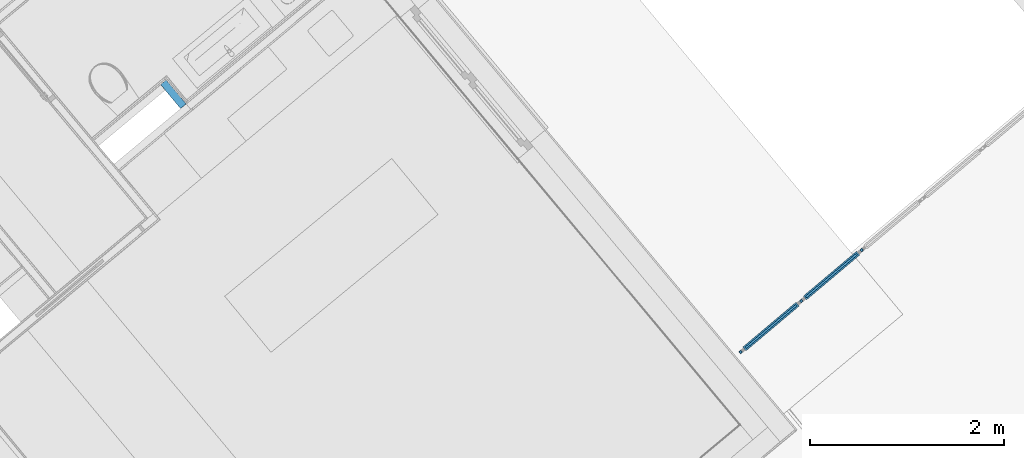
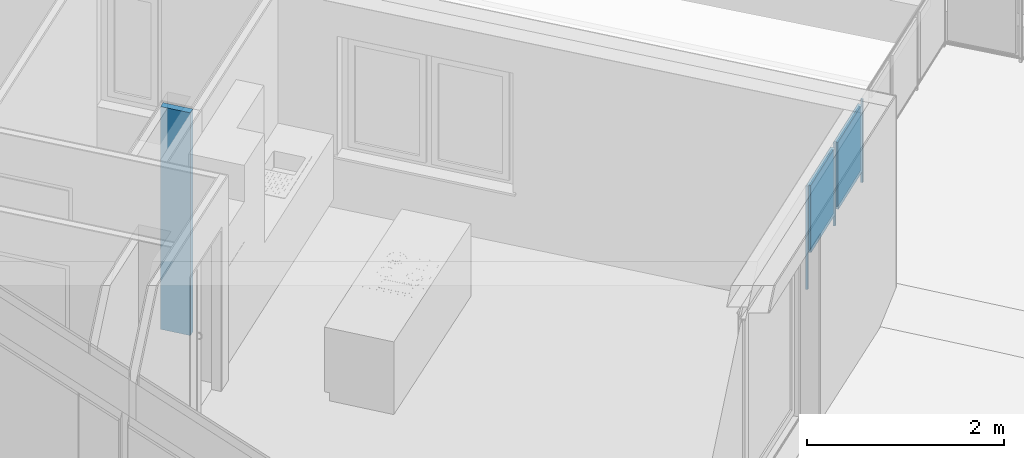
# One storey, part 42 of 67: 8 building element parts, 2 elements without a shape of their own.
"""IFC4 building model written with IfcOpenShell, lengths in metres."""

from ifc_helpers import new_model, entity, si_unit, converted_unit, derived_unit, direction, frame, origin_with_axes, place, context, subcontext, project, spatial, polygons, material, type_object, element, aggregate, save


model = new_model("IFC4")

# Units and contexts
model_context = context("Model", 3, precision=1e-05, world=origin_with_axes(), true_north=direction((0.0, 1.0)))
body_context = subcontext(model_context, "Body", "Model", "MODEL_VIEW")
ifc_project = project(units=[si_unit("LENGTHUNIT", "METRE"), si_unit("AREAUNIT", "SQUARE_METRE"), si_unit("VOLUMEUNIT", "CUBIC_METRE"), converted_unit("PLANEANGLEUNIT", "DEGREE", entity("IfcPlaneAngleMeasure", 0.0174532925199), si_unit("PLANEANGLEUNIT", "RADIAN"), dimensions=[0, 0, 0, 0, 0, 0, 0]), converted_unit("TIMEUNIT", "Year", entity("IfcTimeMeasure", 31556926.0), si_unit("TIMEUNIT", "SECOND"), dimensions=[0, 0, 1, 0, 0, 0, 0]), si_unit("MASSUNIT", "GRAM", prefix="KILO"), si_unit("THERMODYNAMICTEMPERATUREUNIT", "DEGREE_CELSIUS"), si_unit("LUMINOUSINTENSITYUNIT", "LUMEN"), si_unit("ENERGYUNIT", "JOULE", prefix="MEGA"), derived_unit("THERMALCONDUCTANCEUNIT", [(si_unit("POWERUNIT", "WATT"), 1), (si_unit("LENGTHUNIT", "METRE"), -1), (si_unit("THERMODYNAMICTEMPERATUREUNIT", "KELVIN"), -1)]), derived_unit("SPECIFICHEATCAPACITYUNIT", [(si_unit("ENERGYUNIT", "JOULE"), 1), (si_unit("MASSUNIT", "GRAM", prefix="KILO"), -1), (si_unit("THERMODYNAMICTEMPERATUREUNIT", "KELVIN"), -1)]), derived_unit("MASSDENSITYUNIT", [(si_unit("MASSUNIT", "GRAM", prefix="KILO"), 1), (si_unit("VOLUMEUNIT", "CUBIC_METRE"), -1)])], contexts=[model_context])

# Site, building, storey
site_placement = place(None, frame((-0.00153261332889, -0.00661245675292, 0.0), z_axis=(0.0, 0.0, 1.0), x_axis=(1.0, 0.0, 0.0)))
site = spatial("IfcSite", under=ifc_project, at=site_placement, Name="Site", CompositionType="ELEMENT")
building_placement = place(site_placement, origin_with_axes())
building = spatial("IfcBuilding", under=site, at=building_placement, Name="Building", CompositionType="ELEMENT")
storey_placement = place(building_placement, frame((0.0, 0.0, -0.22), z_axis=(0.0, 0.0, 1.0), x_axis=(1.0, 0.0, 0.0)))
storey = spatial("IfcBuildingStorey", under=building, at=storey_placement, Name="EG", CompositionType="ELEMENT", Elevation=-0.22)

# Wall, building element part
wall_type = type_object("IfcWallType", Name="LB 10,5 cm doppelte Vorsatzschale Bad 105", PredefinedType="NOTDEFINED")
wall_placement = place(storey_placement, frame((6.81308887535, 23.8632838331, 0.0), z_axis=(0.0, 0.0, 1.0), x_axis=(0.639370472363, -0.768898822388, 0.0)))
wall = element("IfcWall", 1, at=wall_placement, inside=storey, type_object=wall_type, Name="Wand-004", PredefinedType="NOTDEFINED")
ifc_material_1 = material(Name="Mineralwolle weich")
building_element_part_1_placement = place(wall_placement, origin_with_axes())
building_element_part_1 = element("IfcBuildingElementPart", 2, at=building_element_part_1_placement, material=ifc_material_1, Name="Mineralwolle weich", PredefinedType="NOTDEFINED", context=body_context, shape_type="Tessellation", body=[
    polygons([(0.0298205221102, 0.075, 2.76), (0.353050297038, 0.075, 2.76), (0.353050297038, 0.075, 0.0), (0.0298205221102, 0.075, 0.0), (0.353229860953, 0.0, 2.76), (0.030000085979, 0.0, 2.76), (0.10500030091, 0.0, 2.76), (0.353229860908, 0.0, 0.0), (0.030000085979, 0.0, 0.0)], [[[1, 2, 3, 4]], [[5, 2, 1, 6, 7]], [[2, 5, 8, 3]], [[3, 8, 9, 4]], [[6, 1, 4, 9]], [[7, 6, 9, 8, 5]]], closed=True),
])
aggregate(wall, [building_element_part_1])

# Railing, building element parts
railing_type = type_object("IfcRailingType", Name="Geländerart", PredefinedType="NOTDEFINED")
railing_placement = place(storey_placement, frame((12.7838928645, 21.1193756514, 0.38), z_axis=(0.0, 0.0, 1.0), x_axis=(1.0, 0.0, 0.0)))
railing = element("IfcRailing", 3, at=railing_placement, inside=storey, type_object=railing_type, Name="Geländer - 001", PredefinedType="NOTDEFINED")
ifc_material_2 = material(Name="Aluminium")
building_element_part_2_placement = place(railing_placement, origin_with_axes())
building_element_part_2 = element("IfcBuildingElementPart", 4, at=building_element_part_2_placement, material=ifc_material_2, Name="Aluminium", PredefinedType="NOTDEFINED", context=body_context, shape_type="Tessellation", body=[
    polygons([(0.0498271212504, -0.0397461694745, -0.3), (0.0337202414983, -0.0206263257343, -0.3), (0.0337202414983, -0.0206263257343, 0.98), (0.0498271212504, -0.0397461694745, 0.98), (0.0307072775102, -0.0558530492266, -0.3), (0.0146003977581, -0.0367332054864, -0.3), (0.0146003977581, -0.0367332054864, 0.98), (0.0307072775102, -0.0558530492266, 0.98)], [[[1, 2, 3, 4]], [[1, 5, 6, 2]], [[2, 6, 7, 3]], [[4, 3, 7, 8]], [[5, 1, 4, 8]], [[6, 5, 8, 7]]], closed=True),
])
ifc_material_3 = material(Name="Profilit")
building_element_part_3_placement = place(railing_placement, origin_with_axes())
building_element_part_3 = element("IfcBuildingElementPart", 5, at=building_element_part_3_placement, material=ifc_material_3, Name="Profilit", PredefinedType="NOTDEFINED", context=body_context, shape_type="Tessellation", body=[
    polygons([(0.599984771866, 0.453135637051, 0.135), (0.075482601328, 0.0112861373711, 0.135), (0.075482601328, 0.0112861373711, 0.935), (0.599984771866, 0.453135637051, 0.935), (0.0883681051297, -0.00400973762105, 0.135), (0.612870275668, 0.437839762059, 0.135), (0.0883681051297, -0.00400973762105, 0.935), (0.612870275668, 0.437839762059, 0.935)], [[[1, 2, 3, 4]], [[5, 2, 1, 6]], [[7, 3, 2, 5]], [[4, 3, 7, 8]], [[1, 4, 8, 6]], [[7, 5, 6, 8]]], closed=True),
])
building_element_part_4_placement = place(railing_placement, origin_with_axes())
building_element_part_4 = element("IfcBuildingElementPart", 6, at=building_element_part_4_placement, material=ifc_material_2, Name="Aluminium", PredefinedType="NOTDEFINED", context=body_context, shape_type="Tessellation", body=[
    polygons([(0.14532213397, 0.0603135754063, 0.12), (0.198857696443, 0.105412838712, 0.12), (0.198857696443, 0.105412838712, 0.095), (0.14532213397, 0.0603135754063, 0.095), (0.148543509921, 0.0564896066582, 0.12), (0.202079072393, 0.101588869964, 0.12), (0.202079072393, 0.101588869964, 0.095), (0.148543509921, 0.0564896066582, 0.095)], [[[1, 2, 3, 4]], [[5, 6, 2, 1]], [[2, 6, 7, 3]], [[4, 3, 7, 8]], [[1, 4, 8, 5]], [[8, 7, 6, 5]]], closed=True),
    polygons([(0.539809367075, 0.392636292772, 0.95), (0.486273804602, 0.347537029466, 0.95), (0.486273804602, 0.347537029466, 0.955), (0.539809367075, 0.392636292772, 0.955), (0.543030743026, 0.388812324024, 0.95), (0.489495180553, 0.343713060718, 0.95), (0.489495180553, 0.343713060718, 0.955), (0.543030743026, 0.388812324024, 0.955)], [[[1, 2, 3, 4]], [[5, 6, 2, 1]], [[2, 6, 7, 3]], [[4, 3, 7, 8]], [[1, 4, 8, 5]], [[8, 7, 6, 5]]], closed=True),
    polygons([(0.0865603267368, -0.0251457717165, 0.12), (0.0543465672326, 0.013093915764, 0.12), (0.601792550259, 0.474271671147, 0.12), (0.634006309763, 0.436031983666, 0.12), (0.101856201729, -0.0122602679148, 0.14), (0.0921920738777, -0.000788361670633, 0.14), (0.0883681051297, -0.00400973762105, 0.135), (0.075482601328, 0.0112861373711, 0.135), (0.079306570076, 0.0145075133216, 0.14), (0.0696424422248, 0.0259794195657, 0.14), (0.586496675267, 0.461386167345, 0.14), (0.586496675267, 0.461386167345, 0.93), (0.0696424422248, 0.0259794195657, 0.93), (0.0696424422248, 0.0259794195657, 0.14), (0.0543465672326, 0.013093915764, 0.12), (0.0543465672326, 0.013093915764, 0.95), (0.601792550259, 0.474271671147, 0.95), (0.634006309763, 0.436031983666, 0.95), (0.0865603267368, -0.0251457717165, 0.95), (0.0865603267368, -0.0251457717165, 0.12), (0.101856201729, -0.0122602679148, 0.14), (0.101856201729, -0.0122602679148, 0.93), (0.618710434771, 0.423146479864, 0.93), (0.618710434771, 0.423146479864, 0.14), (0.60904630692, 0.434618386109, 0.14), (0.60904630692, 0.434618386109, 0.93), (0.0921920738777, -0.000788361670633, 0.93), (0.0921920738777, -0.000788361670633, 0.14), (0.0883681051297, -0.00400973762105, 0.135), (0.0883681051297, -0.00400973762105, 0.935), (0.612870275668, 0.437839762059, 0.935), (0.612870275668, 0.437839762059, 0.135), (0.599984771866, 0.453135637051, 0.135), (0.599984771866, 0.453135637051, 0.935), (0.075482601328, 0.0112861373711, 0.935), (0.075482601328, 0.0112861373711, 0.135), (0.079306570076, 0.0145075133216, 0.14), (0.079306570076, 0.0145075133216, 0.93), (0.596160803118, 0.449914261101, 0.93), (0.596160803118, 0.449914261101, 0.14)], [[[1, 2, 3, 4]], [[1, 5, 6, 7, 8, 9, 10, 2]], [[2, 10, 11, 12, 13, 14, 15, 16, 17, 3]], [[4, 3, 17, 18]], [[5, 1, 4, 18, 19, 20, 21, 22, 23, 24]], [[6, 5, 24, 25]], [[7, 6, 25, 26, 27, 28, 29, 30, 31, 32]], [[8, 7, 32, 33]], [[9, 8, 33, 34, 35, 36, 37, 38, 39, 40]], [[10, 9, 40, 11]], [[11, 40, 39, 12]], [[12, 39, 38, 13]], [[13, 38, 37, 14]], [[20, 15, 14, 37, 36, 29, 28, 21]], [[19, 16, 15, 20]], [[18, 17, 16, 19]], [[27, 22, 21, 28]], [[26, 23, 22, 27]], [[25, 24, 23, 26]], [[35, 30, 29, 36]], [[34, 31, 30, 35]], [[33, 32, 31, 34]]], closed=True),
])
building_element_part_5_placement = place(railing_placement, origin_with_axes())
building_element_part_5 = element("IfcBuildingElementPart", 7, at=building_element_part_5_placement, material=ifc_material_2, Name="Aluminium", PredefinedType="NOTDEFINED", context=body_context, shape_type="Tessellation", body=[
    polygons([(0.673752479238, 0.485859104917, -0.05), (0.657645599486, 0.504978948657, -0.05), (0.657645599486, 0.504978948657, 0.98), (0.673752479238, 0.485859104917, 0.98), (0.654632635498, 0.469752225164, -0.05), (0.638525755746, 0.488872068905, -0.05), (0.638525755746, 0.488872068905, 0.98), (0.654632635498, 0.469752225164, 0.98)], [[[1, 2, 3, 4]], [[1, 5, 6, 2]], [[2, 6, 7, 3]], [[4, 3, 7, 8]], [[5, 1, 4, 8]], [[6, 5, 8, 7]]], closed=True),
])
building_element_part_6_placement = place(railing_placement, origin_with_axes())
building_element_part_6 = element("IfcBuildingElementPart", 8, at=building_element_part_6_placement, material=ifc_material_3, Name="Profilit", PredefinedType="NOTDEFINED", context=body_context, shape_type="Tessellation", body=[
    polygons([(1.22391012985, 0.978740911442, 0.135), (0.699407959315, 0.536891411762, 0.135), (0.699407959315, 0.536891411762, 0.935), (1.22391012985, 0.978740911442, 0.935), (0.712293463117, 0.52159553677, 0.135), (1.23679563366, 0.96344503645, 0.135), (0.712293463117, 0.52159553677, 0.935), (1.23679563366, 0.96344503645, 0.935)], [[[1, 2, 3, 4]], [[5, 2, 1, 6]], [[7, 3, 2, 5]], [[4, 3, 7, 8]], [[1, 4, 8, 6]], [[7, 5, 6, 8]]], closed=True),
])
building_element_part_7_placement = place(railing_placement, origin_with_axes())
building_element_part_7 = element("IfcBuildingElementPart", 9, at=building_element_part_7_placement, material=ifc_material_2, Name="Aluminium", PredefinedType="NOTDEFINED", context=body_context, shape_type="Tessellation", body=[
    polygons([(0.769247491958, 0.585918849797, 0.12), (0.822783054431, 0.631018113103, 0.12), (0.822783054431, 0.631018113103, 0.095), (0.769247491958, 0.585918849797, 0.095), (0.772468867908, 0.582094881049, 0.12), (0.826004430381, 0.627194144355, 0.12), (0.826004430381, 0.627194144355, 0.095), (0.772468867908, 0.582094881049, 0.095)], [[[1, 2, 3, 4]], [[5, 6, 2, 1]], [[2, 6, 7, 3]], [[4, 3, 7, 8]], [[1, 4, 8, 5]], [[8, 7, 6, 5]]], closed=True),
    polygons([(1.16373472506, 0.918241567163, 0.95), (1.11019916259, 0.873142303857, 0.95), (1.11019916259, 0.873142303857, 0.955), (1.16373472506, 0.918241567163, 0.955), (1.16695610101, 0.914417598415, 0.95), (1.11342053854, 0.869318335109, 0.95), (1.11342053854, 0.869318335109, 0.955), (1.16695610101, 0.914417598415, 0.955)], [[[1, 2, 3, 4]], [[5, 6, 2, 1]], [[2, 6, 7, 3]], [[4, 3, 7, 8]], [[1, 4, 8, 5]], [[8, 7, 6, 5]]], closed=True),
    polygons([(0.710485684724, 0.500459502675, 0.12), (0.67827192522, 0.538699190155, 0.12), (1.22571790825, 0.999876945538, 0.12), (1.25793166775, 0.961637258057, 0.12), (0.725781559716, 0.513345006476, 0.14), (0.716117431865, 0.52481691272, 0.14), (0.712293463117, 0.52159553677, 0.135), (0.699407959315, 0.536891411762, 0.135), (0.703231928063, 0.540112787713, 0.14), (0.693567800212, 0.551584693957, 0.14), (1.21042203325, 0.986991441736, 0.14), (1.21042203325, 0.986991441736, 0.93), (0.693567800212, 0.551584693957, 0.93), (0.693567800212, 0.551584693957, 0.14), (0.67827192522, 0.538699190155, 0.12), (0.67827192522, 0.538699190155, 0.95), (1.22571790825, 0.999876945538, 0.95), (1.25793166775, 0.961637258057, 0.95), (0.710485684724, 0.500459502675, 0.95), (0.710485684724, 0.500459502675, 0.12), (0.725781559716, 0.513345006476, 0.14), (0.725781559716, 0.513345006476, 0.93), (1.24263579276, 0.948751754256, 0.93), (1.24263579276, 0.948751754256, 0.14), (1.23297166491, 0.9602236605, 0.14), (1.23297166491, 0.9602236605, 0.93), (0.716117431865, 0.52481691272, 0.93), (0.716117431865, 0.52481691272, 0.14), (0.712293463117, 0.52159553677, 0.135), (0.712293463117, 0.52159553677, 0.935), (1.23679563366, 0.96344503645, 0.935), (1.23679563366, 0.96344503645, 0.135), (1.22391012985, 0.978740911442, 0.135), (1.22391012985, 0.978740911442, 0.935), (0.699407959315, 0.536891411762, 0.935), (0.699407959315, 0.536891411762, 0.135), (0.703231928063, 0.540112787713, 0.14), (0.703231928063, 0.540112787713, 0.93), (1.22008616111, 0.975519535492, 0.93), (1.22008616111, 0.975519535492, 0.14)], [[[1, 2, 3, 4]], [[1, 5, 6, 7, 8, 9, 10, 2]], [[2, 10, 11, 12, 13, 14, 15, 16, 17, 3]], [[4, 3, 17, 18]], [[5, 1, 4, 18, 19, 20, 21, 22, 23, 24]], [[6, 5, 24, 25]], [[7, 6, 25, 26, 27, 28, 29, 30, 31, 32]], [[8, 7, 32, 33]], [[9, 8, 33, 34, 35, 36, 37, 38, 39, 40]], [[10, 9, 40, 11]], [[11, 40, 39, 12]], [[12, 39, 38, 13]], [[13, 38, 37, 14]], [[20, 15, 14, 37, 36, 29, 28, 21]], [[19, 16, 15, 20]], [[18, 17, 16, 19]], [[27, 22, 21, 28]], [[26, 23, 22, 27]], [[25, 24, 23, 26]], [[35, 30, 29, 36]], [[34, 31, 30, 35]], [[33, 32, 31, 34]]], closed=True),
])
building_element_part_8_placement = place(railing_placement, origin_with_axes())
building_element_part_8 = element("IfcBuildingElementPart", 10, at=building_element_part_8_placement, material=ifc_material_2, Name="Aluminium", PredefinedType="NOTDEFINED", context=body_context, shape_type="Tessellation", body=[
    polygons([(1.29767783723, 1.01146437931, -0.05), (1.28157095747, 1.03058422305, -0.05), (1.28157095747, 1.03058422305, 0.98), (1.29767783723, 1.01146437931, 0.98), (1.27855799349, 0.995357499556, -0.05), (1.26245111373, 1.0144773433, -0.05), (1.26245111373, 1.0144773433, 0.98), (1.27855799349, 0.995357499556, 0.98)], [[[1, 2, 3, 4]], [[1, 5, 6, 2]], [[2, 6, 7, 3]], [[4, 3, 7, 8]], [[5, 1, 4, 8]], [[6, 5, 8, 7]]], closed=True),
])
aggregate(railing, [building_element_part_2, building_element_part_3, building_element_part_4, building_element_part_5, building_element_part_6, building_element_part_7, building_element_part_8])

save(model, "model.ifc")
